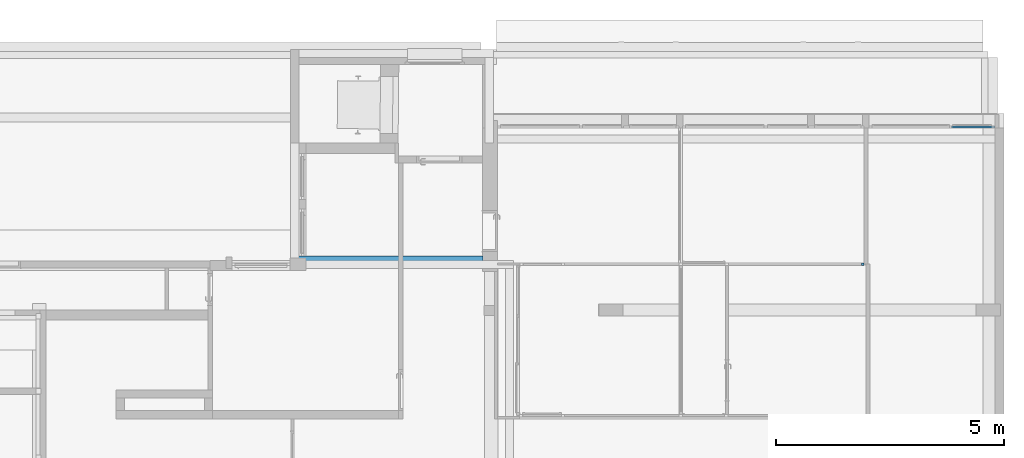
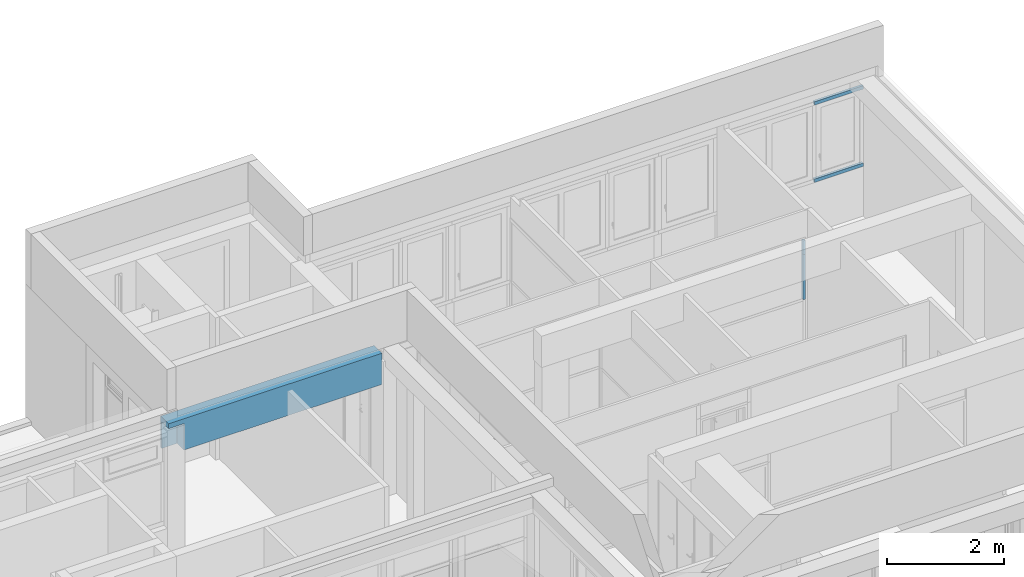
# One storey, part 17 of 49: 4 members, 1 beam, 2 elements without a shape of their own.
"""IFC4 building model written with IfcOpenShell, lengths in metres."""

from ifc_helpers import new_model, entity, si_unit, converted_unit, derived_unit, direction, frame, origin, place, context, subcontext, project, spatial, indexed_curve, outline, extrude, polygons, source, transform, mapped, material, type_object, type_shapes, element, aggregate, save


model = new_model("IFC4")

# Units and contexts
model_context = context("Model", 3, precision=1e-05, world=origin(), true_north=direction((6.12303176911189e-17, 1.0)))
body_context = subcontext(model_context, "Body", "Model", "MODEL_VIEW")
ifc_project = project(units=[si_unit("LENGTHUNIT", "METRE"), si_unit("AREAUNIT", "SQUARE_METRE"), si_unit("VOLUMEUNIT", "CUBIC_METRE"), converted_unit("PLANEANGLEUNIT", "DEGREE", entity("IfcRatioMeasure", 0.0174532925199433), si_unit("PLANEANGLEUNIT", "RADIAN"), dimensions=[0, 0, 0, 0, 0, 0, 0]), si_unit("MASSUNIT", "GRAM", prefix="KILO"), derived_unit("MASSDENSITYUNIT", [(si_unit("MASSUNIT", "GRAM", prefix="KILO"), 1), (si_unit("LENGTHUNIT", "METRE"), -3)]), derived_unit("MOMENTOFINERTIAUNIT", [(si_unit("LENGTHUNIT", "METRE"), 4)]), si_unit("TIMEUNIT", "SECOND"), si_unit("FREQUENCYUNIT", "HERTZ"), si_unit("THERMODYNAMICTEMPERATUREUNIT", "DEGREE_CELSIUS"), derived_unit("THERMALTRANSMITTANCEUNIT", [(si_unit("MASSUNIT", "GRAM", prefix="KILO"), 1), (si_unit("THERMODYNAMICTEMPERATUREUNIT", "KELVIN"), -1), (si_unit("TIMEUNIT", "SECOND"), -3)]), derived_unit("VOLUMETRICFLOWRATEUNIT", [(si_unit("LENGTHUNIT", "METRE"), 3), (si_unit("TIMEUNIT", "SECOND"), -1)]), si_unit("ELECTRICCURRENTUNIT", "AMPERE"), si_unit("ELECTRICVOLTAGEUNIT", "VOLT"), si_unit("POWERUNIT", "WATT"), si_unit("FORCEUNIT", "NEWTON", prefix="KILO"), si_unit("ILLUMINANCEUNIT", "LUX"), si_unit("LUMINOUSFLUXUNIT", "LUMEN"), si_unit("LUMINOUSINTENSITYUNIT", "CANDELA"), derived_unit("USERDEFINED", [(si_unit("MASSUNIT", "GRAM", prefix="KILO"), -1), (si_unit("LENGTHUNIT", "METRE"), -2), (si_unit("TIMEUNIT", "SECOND"), 3), (si_unit("LUMINOUSFLUXUNIT", "LUMEN"), 1)]), derived_unit("LINEARVELOCITYUNIT", [(si_unit("LENGTHUNIT", "METRE"), 1), (si_unit("TIMEUNIT", "SECOND"), -1)]), si_unit("PRESSUREUNIT", "PASCAL"), derived_unit("USERDEFINED", [(si_unit("LENGTHUNIT", "METRE"), -2), (si_unit("MASSUNIT", "GRAM", prefix="KILO"), 1), (si_unit("TIMEUNIT", "SECOND"), -2)]), derived_unit("LINEARFORCEUNIT", [(si_unit("MASSUNIT", "GRAM", prefix="KILO"), 1), (si_unit("LENGTHUNIT", "METRE"), 1), (si_unit("TIMEUNIT", "SECOND"), -2), (si_unit("LENGTHUNIT", "METRE"), -1)]), derived_unit("PLANARFORCEUNIT", [(si_unit("MASSUNIT", "GRAM", prefix="KILO"), 1), (si_unit("LENGTHUNIT", "METRE"), 1), (si_unit("TIMEUNIT", "SECOND"), -2), (si_unit("LENGTHUNIT", "METRE"), -2)])], contexts=[model_context])

# Site, building, storey
site_placement = place(None, origin())
site = spatial("IfcSite", under=ifc_project, at=site_placement, Name="Default", CompositionType="ELEMENT")
building_placement = place(site_placement, origin())
building = spatial("IfcBuilding", under=site, at=building_placement, Name="HOTEL CONSULAIRE BOULOGNE SUR MER", CompositionType="ELEMENT")
storey_placement = place(building_placement, frame((0.0, 0.0, 6.81974152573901)))
storey = spatial("IfcBuildingStorey", under=building, at=storey_placement, Name="Niveau 2", CompositionType="ELEMENT", Elevation=6.81974152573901)

# Curtain wall, members
curtain_wall_type = type_object("IfcCurtainWallType", Name="Mur-rideau:Simple panneau", PredefinedType="NOTDEFINED")
curtain_wall_1_placement = place(storey_placement, frame((0.0, 0.0, -6.81974152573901)))
curtain_wall_1 = element("IfcCurtainWall", 1, at=curtain_wall_1_placement, inside=storey, type_object=curtain_wall_type, Name="Mur-rideau:Simple panneau", ObjectType="Mur-rideau:Simple panneau", PredefinedType="NOTDEFINED")
ifc_material_1 = material(Name="PVC, souple", Category="Plastique")
member_type_1 = type_object("IfcMemberType", Name="Meneau rectangulaire:50 x 35 pvc gris", PredefinedType="MULLION", material=ifc_material_1)
shared_shape_1 = source(origin(), body_context, "Body", "SweptSolid", [
    extrude(outline(indexed_curve([(-0.025, -0.035), (0.025, -0.035), (0.025, 0.035), (-0.025, 0.035), (-0.025, -0.035)], self_intersect=False)), frame((-0.035, -0.025, -0.964999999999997), z_axis=(0.0, 0.0, 1.0), x_axis=(0.0, -1.0, 0.0)), (0.0, 0.0, 1.0), 0.964999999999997),
])
type_shapes(member_type_1, [shared_shape_1])
member_1_placement = place(storey_placement, frame((22.5979359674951, -11.5914237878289, 1.03571275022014), z_axis=(1.0, 0.0, 0.0), x_axis=(0.0, 0.0, -1.0)))
member_1 = element("IfcMember", 2, at=member_1_placement, type_object=member_type_1, material=ifc_material_1, Name="Meneau rectangulaire:50 x 35 pvc gris", ObjectType="Meneau rectangulaire:50 x 35 pvc gris", PredefinedType="MULLION", context=body_context, shape_type="MappedRepresentation", body=[
    mapped(shared_shape_1, transform((0.0, 0.0, 0.0), scale=1.0)),
])
member_type_2 = type_object("IfcMemberType", Name="Meneau rectangulaire:50 x 35 pvc gris", PredefinedType="MULLION", material=ifc_material_1)
shared_shape_2 = source(origin(), body_context, "Body", "SweptSolid", [
    extrude(outline(indexed_curve([(-0.025, -0.035), (0.025, -0.035), (0.025, 0.035), (-0.025, 0.035), (-0.025, -0.035)], self_intersect=False)), frame((-0.035, -0.025, -0.964999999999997), z_axis=(0.0, 0.0, 1.0), x_axis=(0.0, -1.0, 0.0)), (0.0, 0.0, 1.0), 0.964999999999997),
])
type_shapes(member_type_2, [shared_shape_2])
member_2_placement = place(storey_placement, frame((21.6329359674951, -11.5914237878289, 2.7119999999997), z_axis=(-1.0, 0.0, 0.0), x_axis=(0.0, 0.0, 1.0)))
member_2 = element("IfcMember", 3, at=member_2_placement, type_object=member_type_2, material=ifc_material_1, Name="Meneau rectangulaire:50 x 35 pvc gris", ObjectType="Meneau rectangulaire:50 x 35 pvc gris", PredefinedType="MULLION", context=body_context, shape_type="MappedRepresentation", body=[
    mapped(shared_shape_2, transform((0.0, 0.0, 0.0), scale=1.0)),
])
aggregate(curtain_wall_1, [member_1, member_2])

curtain_wall_2_placement = place(storey_placement, frame((0.0, 0.0, -6.81974152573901)))
curtain_wall_2 = element("IfcCurtainWall", 4, at=curtain_wall_2_placement, inside=storey, type_object=curtain_wall_type, Name="Mur-rideau:Simple panneau", ObjectType="Mur-rideau:Simple panneau", PredefinedType="NOTDEFINED")
ifc_material_2 = material(Name="PVC - Blanc", Category="Plastique")
member_type_3 = type_object("IfcMemberType", Name="Meneau rectangulaire:50 x 25mm", PredefinedType="MULLION", material=ifc_material_2)
shared_shape_3 = source(origin(), body_context, "Body", "SweptSolid", [
    extrude(outline(indexed_curve([(-0.025, -0.025), (0.025, -0.025), (0.025, 0.025), (-0.025, 0.025), (-0.025, -0.025)], self_intersect=False)), frame((-0.025, -0.025, -0.934999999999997), z_axis=(0.0, 0.0, 1.0), x_axis=(0.0, -1.0, 0.0)), (0.0, 0.0, 1.0), 0.934999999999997),
])
type_shapes(member_type_3, [shared_shape_3])
member_3_placement = place(storey_placement, frame((19.722821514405, -14.6024237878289, 2.046)))
member_3 = element("IfcMember", 5, at=member_3_placement, type_object=member_type_3, material=ifc_material_2, Name="Meneau rectangulaire:50 x 25mm", ObjectType="Meneau rectangulaire:50 x 25mm", PredefinedType="MULLION", context=body_context, shape_type="MappedRepresentation", body=[
    mapped(shared_shape_3, transform((0.0, 0.0, 0.0), scale=1.0)),
])
member_type_4 = type_object("IfcMemberType", Name="Meneau rectangulaire:50 x 25mm", PredefinedType="MULLION", material=ifc_material_2)
shared_shape_4 = source(origin(), body_context, "Body", "SweptSolid", [
    extrude(outline(indexed_curve([(-0.025, -0.025), (0.025, -0.025), (0.025, 0.025), (-0.025, 0.025), (-0.025, -0.025)], self_intersect=False)), frame((-0.025, -0.025, -0.286), z_axis=(0.0, 0.0, 1.0), x_axis=(0.0, -1.0, 0.0)), (0.0, 0.0, 1.0), 0.286),
])
type_shapes(member_type_4, [shared_shape_4])
member_4_placement = place(storey_placement, frame((19.722821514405, -14.6024237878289, 2.332)))
member_4 = element("IfcMember", 6, at=member_4_placement, type_object=member_type_4, material=ifc_material_2, Name="Meneau rectangulaire:50 x 25mm", ObjectType="Meneau rectangulaire:50 x 25mm", PredefinedType="MULLION", context=body_context, shape_type="MappedRepresentation", body=[
    mapped(shared_shape_4, transform((0.0, 0.0, 0.0), scale=1.0)),
])
aggregate(curtain_wall_2, [member_3, member_4])

# Beam
ifc_material_3 = material(Name="Béton - Béton coulé sur place", Category="Béton")
beam_type = type_object("IfcBeamType", Name="Poutre rectangulaire - Béton:270x650", PredefinedType="BEAM", material=ifc_material_3)
shared_shape_5 = source(origin(), body_context, "Body", "Tessellation", [
    polygons([(1.08286712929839e-15, 0.270000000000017, 0.649999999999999), (1.08286712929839e-15, 0.270000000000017, 0.0), (1.08286712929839e-15, 0.230176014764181, 0.0), (1.08286712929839e-15, 0.230176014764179, 0.550000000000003), (0.0, 0.0851760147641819, 0.550000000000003), (0.0, 1.73258740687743e-14, 0.550000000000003), (0.0, 1.73258740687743e-14, 0.649999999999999), (0.0, 0.0851760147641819, 0.649999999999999), (4.1944, 0.270000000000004, 0.649999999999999), (4.1944, 0.085176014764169, 0.649999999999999), (4.1944, 4.33146851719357e-15, 0.649999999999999), (4.1944, 4.33146851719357e-15, 0.514999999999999), (4.1944, 4.33146851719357e-15, 0.0), (4.1944, 0.270000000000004, 0.0), (2.34209090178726, 0.27000000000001, 0.649999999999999), (2.43209090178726, 0.270000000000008, 0.649999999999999), (4.18209090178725, 0.270000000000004, 0.649999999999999), (4.18209090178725, 0.270000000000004, 0.0), (2.43209090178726, 0.270000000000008, 0.0), (2.34209090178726, 0.27000000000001, 0.0), (4.18209090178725, 2.16573425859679e-15, 0.0), (2.43209090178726, 6.49720277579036e-15, 0.0), (2.34209090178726, 6.49720277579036e-15, 0.0), (0.304600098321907, 1.29944055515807e-14, 0.0), (0.304600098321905, 0.230176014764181, 0.0), (0.304600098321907, 1.51601398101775e-14, 0.550000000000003), (0.304600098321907, 1.51601398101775e-14, 0.514999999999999), (0.304600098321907, 0.230176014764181, 0.550000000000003)], [[[6, 7, 8, 1, 2, 3, 4, 5]], [[27, 26, 28, 25, 24]], [[13, 14, 9, 10, 11, 12]], [[2, 1, 15, 16, 17, 9, 14, 18, 19, 20]], [[25, 3, 2, 20, 19, 18, 14, 13, 21, 22, 23, 24]], [[5, 4, 28, 26, 6]], [[27, 24, 23, 22, 21, 13, 12, 11, 7, 6, 26]], [[25, 28, 4, 3]], [[15, 1, 8, 7, 11, 10, 9, 17, 16]]], closed=True),
])
type_shapes(beam_type, [shared_shape_5])
beam_placement = place(storey_placement, frame((7.15886767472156, -14.7230869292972, 2.307)))
element("IfcBeam", 7, at=beam_placement, inside=storey, type_object=beam_type, material=ifc_material_3, Name="Poutre rectangulaire - Béton:270x650", ObjectType="Poutre rectangulaire - Béton:270x650", PredefinedType="BEAM", context=body_context, shape_type="MappedRepresentation", body=[
    mapped(shared_shape_5, transform((0.0, 0.0, 0.0), scale=1.0)),
])

save(model, "model.ifc")
